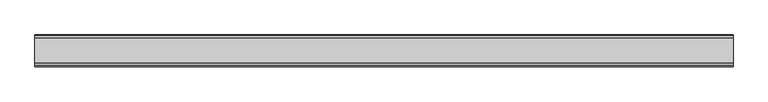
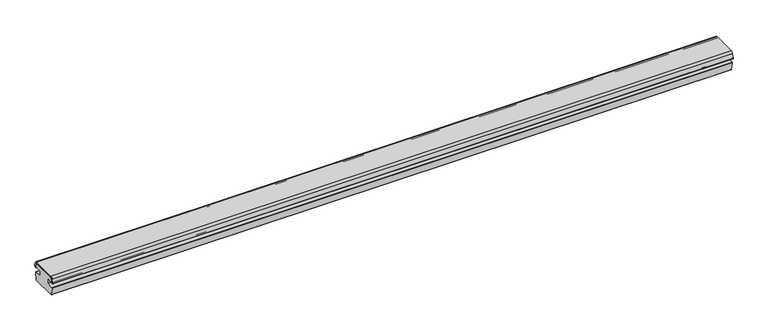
"""IFC4 building model written with IfcOpenShell, lengths in millimetres: proxy geometry, Weiku - Montante - Divisor fixo 02.2.01.041 : Weiku - Montante - Divisor fixo 02.2.01.041."""

from ifc_helpers import new_model, si_unit, point, frame, frame_2d, origin, place, context, project, spatial, polyline, circle_curve, trimmed, segment, composite_curve, outline, extrude, source, transform, mapped, element, save


def generic_models_c8fcacc9(model_context):
    return source(origin(), model_context, "Body", "SweptSolid", [
        extrude(outline(composite_curve([segment(trimmed(circle_curve(frame_2d((-33.0007245, 47.0)), 3.0), [point((-33.0007245, 50.0))], [point((-35.898502, 47.7764571))], True, "CARTESIAN"), True, "CONTINUOUS"), segment(polyline([(-35.898502, 47.7764571), (-38.4496907, 38.2552914)]), True, "CONTINUOUS"), segment(trimmed(circle_curve(frame_2d((-37.8701352, 38.1)), 0.6), [point((-38.4496907, 38.2552914))], [point((-37.8701352, 37.5))], True, "CARTESIAN"), True, "CONTINUOUS"), segment(polyline([(-37.8701352, 37.5), (-35.6935072, 37.5), (-35.6935072, 35.5), (-39.6935072, 35.5)]), True, "CONTINUOUS"), segment(trimmed(circle_curve(frame_2d((-39.6935072, 38.5)), 3.0), [point((-39.6935072, 35.5))], [point((-42.6544744, 38.0176381))], False, "CARTESIAN"), True, "CONTINUOUS"), segment(polyline([(-42.6544744, 38.0176381), (-39.7622053, 48.8117333)]), True, "CONTINUOUS"), segment(trimmed(circle_curve(frame_2d((-33.0007245, 47.0)), 7.0), [point((-39.7622053, 48.8117333))], [point((-33.0007245, 54.0))], False, "CARTESIAN"), True, "CONTINUOUS"), segment(polyline([(-33.0007245, 54.0), (33.0007245, 54.0)]), True, "CONTINUOUS"), segment(trimmed(circle_curve(frame_2d((33.0007245, 47.0)), 7.0), [point((33.0007245, 54.0))], [point((39.7622053, 48.8117333))], False, "CARTESIAN"), True, "CONTINUOUS"), segment(polyline([(39.7622053, 48.8117333), (42.3171749, 39.2764571)]), True, "CONTINUOUS"), segment(trimmed(circle_curve(frame_2d((39.4193974, 38.5)), 3.0), [point((42.3171749, 39.2764571))], [point((39.4193974, 35.5))], False, "CARTESIAN"), True, "CONTINUOUS"), segment(polyline([(39.4193974, 35.5), (35.6935072, 35.5), (35.6935072, 37.5), (37.8701352, 37.5)]), True, "CONTINUOUS"), segment(trimmed(circle_curve(frame_2d((37.8701352, 38.1)), 0.6), [point((37.8701352, 37.5))], [point((38.4496907, 38.2552914))], True, "CARTESIAN"), True, "CONTINUOUS"), segment(polyline([(38.4496907, 38.2552914), (35.898502, 47.7764571)]), True, "CONTINUOUS"), segment(trimmed(circle_curve(frame_2d((33.0007245, 47.0)), 3.0), [point((35.898502, 47.7764571))], [point((33.0007245, 50.0))], True, "CARTESIAN"), True, "CONTINUOUS"), segment(polyline([(33.0007245, 50.0), (-33.0007245, 50.0)]), True, "CONTINUOUS")], self_intersect=False)), frame((-928.5, 0.0, 0.0), z_axis=(1.0, 0.0, 0.0), x_axis=(0.0, 1.0, 0.0)), (0.0, 0.0, 1.0), 1857.0),
        extrude(outline(composite_curve([segment(polyline([(-33.0007245, 50.0), (33.0007245, 50.0)]), True, "CONTINUOUS"), segment(trimmed(circle_curve(frame_2d((33.0007245, 47.0)), 3.0), [point((33.0007245, 50.0))], [point((35.898502, 47.7764571))], False, "CARTESIAN"), True, "CONTINUOUS"), segment(polyline([(35.898502, 47.7764571), (38.4496907, 38.2552914)]), True, "CONTINUOUS"), segment(trimmed(circle_curve(frame_2d((37.8701352, 38.1)), 0.6), [point((38.4496907, 38.2552914))], [point((37.8701352, 37.5))], False, "CARTESIAN"), True, "CONTINUOUS"), segment(polyline([(37.8701352, 37.5), (17.5004577, 37.5), (17.5004577, 23.5), (37.5139562, 23.5)]), True, "CONTINUOUS"), segment(trimmed(circle_curve(frame_2d((37.5139562, 22.5)), 1.0), [point((37.5139562, 23.5))], [point((38.5006041, 22.3371317))], False, "CARTESIAN"), True, "CONTINUOUS"), segment(polyline([(38.5006041, 22.3371317), (34.9515483, 0.8371317)]), True, "CONTINUOUS"), segment(trimmed(circle_curve(frame_2d((33.9649005, 1.0)), 1.0), [point((34.9515483, 0.8371317))], [point((33.9649005, 0.0))], False, "CARTESIAN"), True, "CONTINUOUS"), segment(polyline([(33.9649005, 0.0), (-33.9649005, 0.0)]), True, "CONTINUOUS"), segment(trimmed(circle_curve(frame_2d((-33.9649005, 1.0)), 1.0), [point((-33.9649005, 0.0))], [point((-34.9515483, 0.8371317))], False, "CARTESIAN"), True, "CONTINUOUS"), segment(polyline([(-34.9515483, 0.8371317), (-38.5006041, 22.3371317)]), True, "CONTINUOUS"), segment(trimmed(circle_curve(frame_2d((-37.5139562, 22.5)), 1.0), [point((-38.5006041, 22.3371317))], [point((-37.5139562, 23.5))], False, "CARTESIAN"), True, "CONTINUOUS"), segment(polyline([(-37.5139562, 23.5), (-17.5004577, 23.5), (-17.5004577, 37.5), (-37.8701352, 37.5)]), True, "CONTINUOUS"), segment(trimmed(circle_curve(frame_2d((-37.8701352, 38.1)), 0.6), [point((-37.8701352, 37.5))], [point((-38.4496907, 38.2552914))], False, "CARTESIAN"), True, "CONTINUOUS"), segment(polyline([(-38.4496907, 38.2552914), (-35.898502, 47.7764571)]), True, "CONTINUOUS"), segment(trimmed(circle_curve(frame_2d((-33.0007245, 47.0)), 3.0), [point((-35.898502, 47.7764571))], [point((-33.0007245, 50.0))], False, "CARTESIAN"), True, "CONTINUOUS")], self_intersect=False)), frame((-928.5, 0.0, 0.0), z_axis=(1.0, 0.0, 0.0), x_axis=(0.0, 1.0, 0.0)), (0.0, 0.0, 1.0), 1857.0),
    ])


if __name__ == "__main__":
    model = new_model("IFC4")
    model_context = context("Model", 3, world=origin())
    ifc_project = project(units=[si_unit("LENGTHUNIT", "METRE", prefix="MILLI")], contexts=[model_context])
    site = spatial("IfcSite", under=ifc_project)
    building = spatial("IfcBuilding", under=site)
    placement = place(None, origin())
    generic_models_shape = generic_models_c8fcacc9(model_context)
    element("IfcBuildingElementProxy", 1, Name="Weiku - Montante - Divisor fixo 02.2.01.041 : Weiku - Montante - Divisor fixo 02.2.01.041", ObjectType="Weiku - Montante - Divisor fixo 02.2.01.041 : Weiku - Montante - Divisor fixo 02.2.01.041", at=placement, inside=building, context=model_context, shape_type="MappedRepresentation", body=[
        mapped(generic_models_shape, transform((0.0, 0.0, 0.0), x_axis=(1.0, 0.0, 0.0), y_axis=(0.0, 1.0, 0.0), z_axis=(0.0, 0.0, 1.0))),
    ])
    save(model, "model.ifc")
